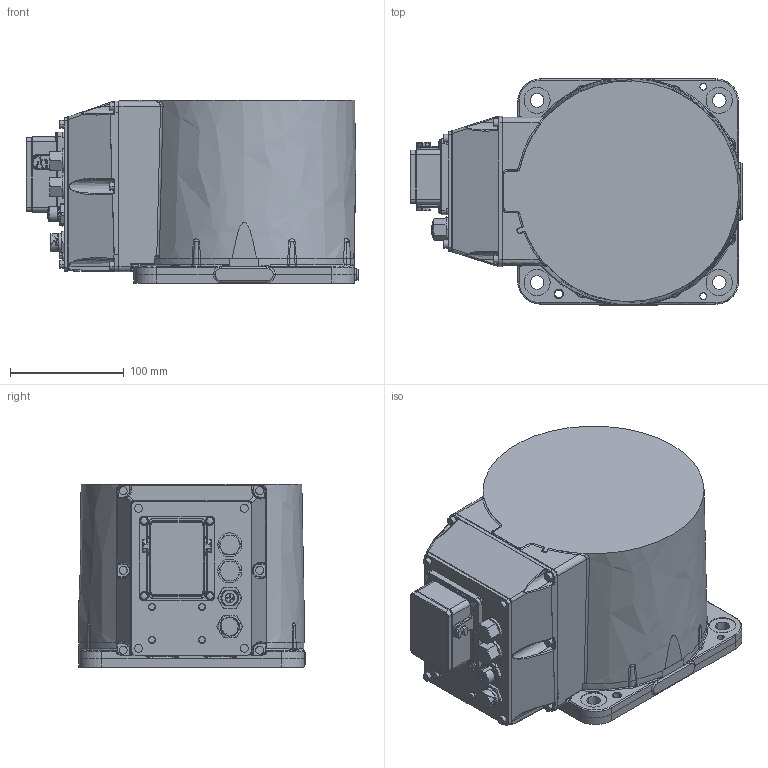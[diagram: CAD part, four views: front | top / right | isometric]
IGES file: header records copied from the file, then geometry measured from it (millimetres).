
Start section:  PTC IGES file: base_view_yr-n1-06vx7-c00.igs
Global section: file name: base_view_yr-n1-06vx7-c00.igs; native system: Creo Parametric by PTC Inc.; preprocessor: 2021072; author: mttm21; organization: Unknown; date: 20250919.181726; units: millimetre
Bounding box: 291.65 x 199 x 160.8 mm (x, y, z)
Volume: 6284809.9 mm3; surface area: 236812.5 mm2
Topology: 1 solids, 2 shells, 1362 faces, 3282 edges, 1978 vertices
Faces by surface type: revolution 739, bspline 623
